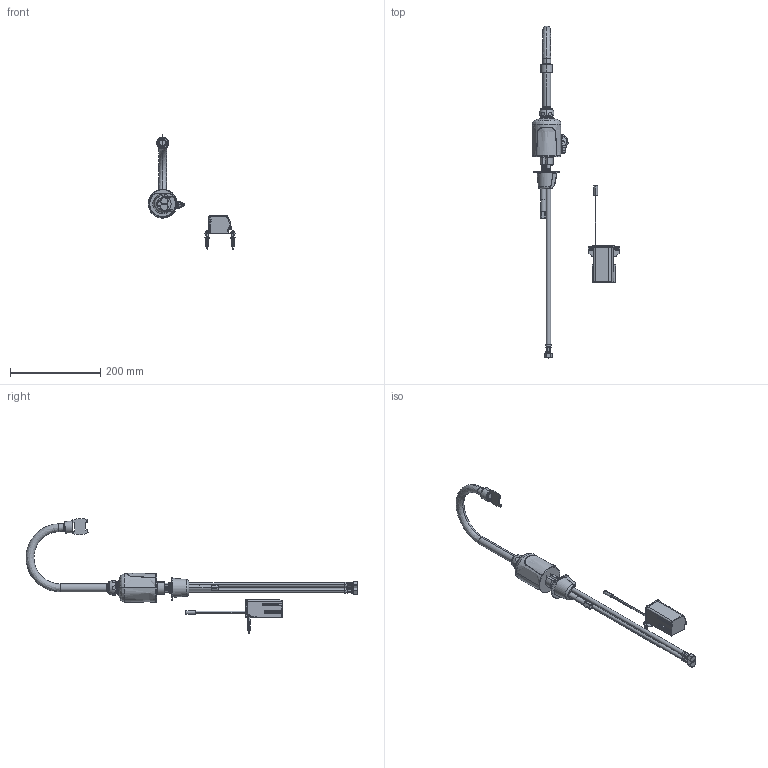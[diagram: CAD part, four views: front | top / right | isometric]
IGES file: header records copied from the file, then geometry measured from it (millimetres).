
Start section:  PTC IGES file: 116-650-ab-x_schedule_REV012418.igs
Global section: file name: 116-650-ab-x_schedule_REV012418.igs; native system: Creo Parametric by PTC Inc.; preprocessor: 2014500; author: dmisv; organization: Unknown; date: 20180130.143645; units: inch
Bounding box: 193.56 x 734.87 x 254.48 mm (x, y, z)
Surface area: 130711.9 mm2 (no closed solid volume)
Topology: 0 solids, 91 shells, 898 faces, 2859 edges, 1970 vertices
Faces by surface type: revolution 476, bspline 422
